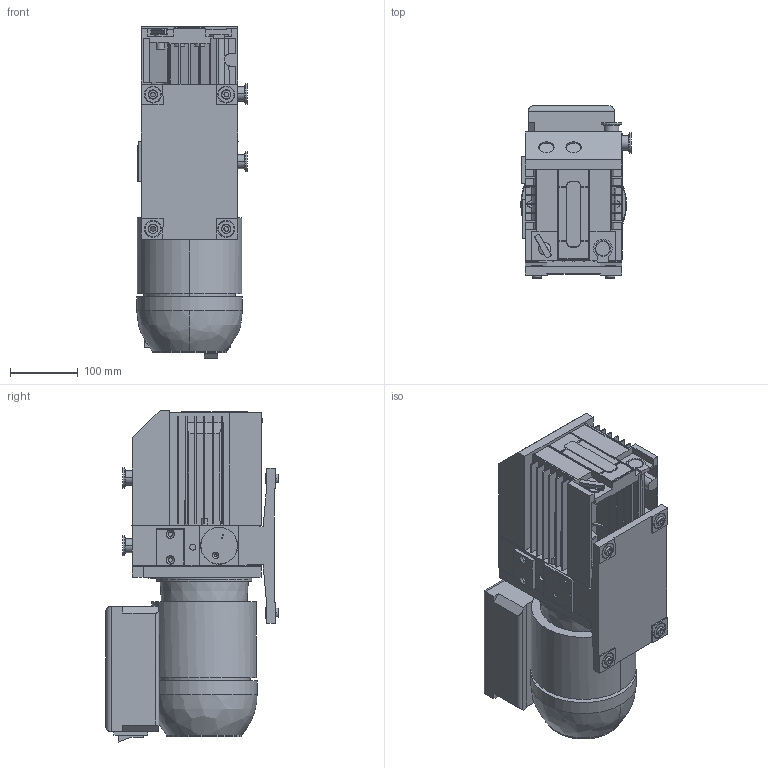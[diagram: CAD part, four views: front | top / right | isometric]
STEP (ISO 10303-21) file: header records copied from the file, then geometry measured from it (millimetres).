
FILE_DESCRIPTION((''),'2;1');
FILE_NAME('300593858_Y19_000_ASM','2016-03-09T',('56762'),('Copyright by Leybold GmbH'),'PRO/ENGINEER BY PARAMETRIC TECHNOLOGY CORPORATION, 2013320','PRO/ENGINEER BY PARAMETRIC TECHNOLOGY CORPORATION, 2013320','');
FILE_SCHEMA(('AUTOMOTIVE_DESIGN { 1 0 10303 214 1 1 1 1 }'));
Length unit declared in the file: millimetre
Products named in the file (19): 300593853_Y19_000; 300593834_Y19_000; 300593835_Y19_000; 300593838_Y19_000; 300593841_Y19_000; 300593851_Y19_000; 300593842_Y19_000; 300590946_Y19_000; 300593840_Y19_000; 300593852_Y19_000; 300593857_Y19_000_ASM; 300590938_Y19_000; 300593693_Y19_000; 300590935_Y19_000; 300590913_Y19_000; 300590922_Y19_000_ASM; 300593862_Y19_000; 300593863_Y19_000; 300593858_Y19_000_ASM
Assembly tree (26 placements, depth 3):
  300593858_Y19_000_ASM
    300593857_Y19_000_ASM
      300593853_Y19_000
      300593834_Y19_000
      300593835_Y19_000
      300593838_Y19_000
      300593841_Y19_000
      300593851_Y19_000
      300593842_Y19_000
      300590946_Y19_000
      300593840_Y19_000
      300593852_Y19_000
    300590938_Y19_000  x4
    300593693_Y19_000
    300590935_Y19_000  x3
    300590922_Y19_000_ASM
      300590913_Y19_000
    300593862_Y19_000  x4
    300593863_Y19_000
Bounding box: 162.93 x 254 x 489.34 mm (x, y, z)
Volume: 11997756.2 mm3; surface area: 938131.6 mm2
Topology: 23 solids, 41 shells, 1106 faces, 2800 edges, 1839 vertices
Faces by surface type: plane 722, cylinder 270, cone 112, bspline 2
Entity records: 28662 total; most frequent: CARTESIAN_POINT 5358, DIRECTION 4654, ORIENTED_EDGE 4560, EDGE_CURVE 2280, VECTOR 1702, LINE 1702, VERTEX_POINT 1503, AXIS2_PLACEMENT_3D 1476
